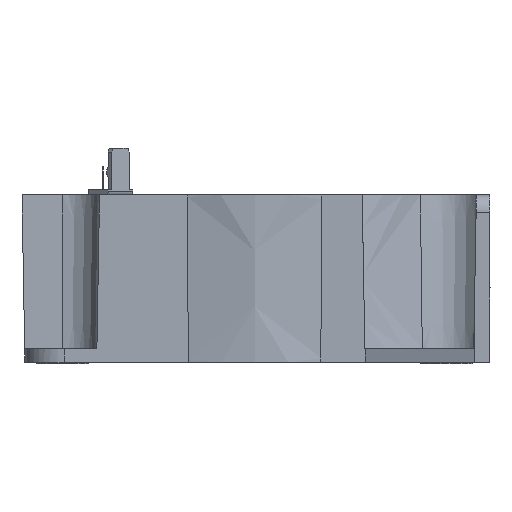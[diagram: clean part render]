
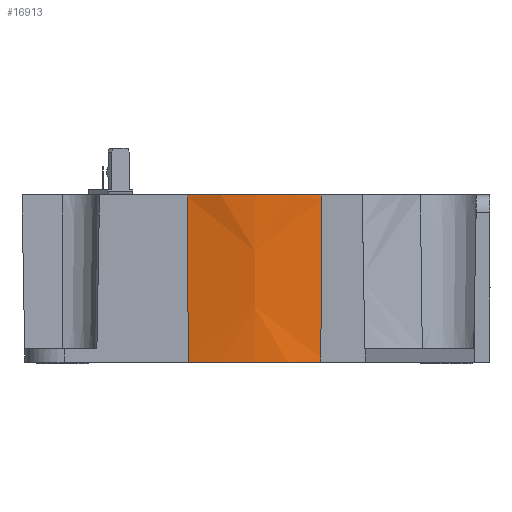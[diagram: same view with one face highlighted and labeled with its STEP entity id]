
A CAD part, left-side view. The second image highlights one B-rep face of the part: STEP entity #16913.
In plain terms, the highlighted conical face has half-angle 1 degrees and reference radius 47 mm.
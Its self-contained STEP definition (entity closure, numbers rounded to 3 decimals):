
#6385=CARTESIAN_POINT('',(-44.408,-12.649,-17.759));
#6386=VERTEX_POINT('',#6385);
#6393=CARTESIAN_POINT('',(-44.408,14.304,-17.759));
#6394=VERTEX_POINT('',#6393);
#6395=CARTESIAN_POINT('',(-0.001,0.828,-17.759));
#6396=DIRECTION('',(0.,0.,-1.0));
#6397=DIRECTION('',(-0.957,0.289,0.));
#6398=AXIS2_PLACEMENT_3D('',#6395,#6396,#6397);
#6399=CIRCLE('',#6398,46.407);
#6400=EDGE_CURVE('',#6386,#6394,#6399,.T.);
#14872=CARTESIAN_POINT('',(-44.424,-12.652,-16.858));
#14873=VERTEX_POINT('',#14872);
#14874=CARTESIAN_POINT('',(-44.408,-12.649,-17.759));
#14875=CARTESIAN_POINT('',(-44.416,-12.65,-17.308));
#14876=CARTESIAN_POINT('',(-44.424,-12.652,-16.858));
#14877=B_SPLINE_CURVE_WITH_KNOTS('',2,(#14874,#14875,#14876),.UNSPECIFIED.,.F.,.U.,(3,3),(114.413,114.501),.UNSPECIFIED.);
#14878=EDGE_CURVE('',#14873,#6386,#14877,.F.);
#14889=CARTESIAN_POINT('',(-45.001,-12.737,16.241));
#14890=VERTEX_POINT('',#14889);
#14897=CARTESIAN_POINT('',(-44.986,-12.735,15.339));
#14898=VERTEX_POINT('',#14897);
#14899=CARTESIAN_POINT('',(-44.986,-12.735,15.339));
#14900=CARTESIAN_POINT('',(-44.994,-12.736,15.79));
#14901=CARTESIAN_POINT('',(-45.001,-12.737,16.241));
#14902=B_SPLINE_CURVE_WITH_KNOTS('',2,(#14899,#14900,#14901),.UNSPECIFIED.,.F.,.U.,(3,3),(117.653,117.741),.UNSPECIFIED.);
#14903=EDGE_CURVE('',#14890,#14898,#14902,.F.);
#14905=CARTESIAN_POINT('',(-44.424,-12.652,-16.858));
#14906=CARTESIAN_POINT('',(-44.704,-12.693,-0.809));
#14907=CARTESIAN_POINT('',(-44.986,-12.735,15.339));
#14908=B_SPLINE_CURVE_WITH_KNOTS('',2,(#14905,#14906,#14907),.UNSPECIFIED.,.F.,.U.,(3,3),(114.501,117.653),.UNSPECIFIED.);
#14909=EDGE_CURVE('',#14898,#14873,#14908,.F.);
#14921=CARTESIAN_POINT('',(-44.415,14.306,-17.328));
#14922=VERTEX_POINT('',#14921);
#14923=CARTESIAN_POINT('',(-44.415,14.306,-17.328));
#14924=CARTESIAN_POINT('',(-44.412,14.305,-17.543));
#14925=CARTESIAN_POINT('',(-44.408,14.304,-17.759));
#14926=B_SPLINE_CURVE_WITH_KNOTS('',2,(#14923,#14924,#14925),.UNSPECIFIED.,.F.,.U.,(3,3),(95.868,95.91),.UNSPECIFIED.);
#14927=EDGE_CURVE('',#6394,#14922,#14926,.F.);
#14929=CARTESIAN_POINT('',(-44.994,14.391,15.812));
#14930=VERTEX_POINT('',#14929);
#14931=CARTESIAN_POINT('',(-44.994,14.391,15.812));
#14932=CARTESIAN_POINT('',(-44.704,14.348,-0.81));
#14933=CARTESIAN_POINT('',(-44.415,14.306,-17.328));
#14934=B_SPLINE_CURVE_WITH_KNOTS('',2,(#14931,#14932,#14933),.UNSPECIFIED.,.F.,.U.,(3,3),(92.624,95.868),.UNSPECIFIED.);
#14935=EDGE_CURVE('',#14922,#14930,#14934,.F.);
#14937=CARTESIAN_POINT('',(-45.001,14.392,16.241));
#14938=VERTEX_POINT('',#14937);
#14939=CARTESIAN_POINT('',(-45.001,14.392,16.241));
#14940=CARTESIAN_POINT('',(-44.998,14.392,16.027));
#14941=CARTESIAN_POINT('',(-44.994,14.391,15.812));
#14942=B_SPLINE_CURVE_WITH_KNOTS('',2,(#14939,#14940,#14941),.UNSPECIFIED.,.F.,.U.,(3,3),(92.582,92.624),.UNSPECIFIED.);
#14943=EDGE_CURVE('',#14930,#14938,#14942,.F.);
#15704=CARTESIAN_POINT('',(-0.001,0.828,16.241));
#15705=DIRECTION('',(0.,0.,1.0));
#15706=DIRECTION('',(-0.957,0.289,0.));
#15707=AXIS2_PLACEMENT_3D('',#15704,#15705,#15706);
#15708=CIRCLE('',#15707,47.0);
#15709=EDGE_CURVE('',#14938,#14890,#15708,.T.);
#16898=CARTESIAN_POINT('',(-0.001,0.828,16.241));
#16899=DIRECTION('',(0.,0.,1.0));
#16900=DIRECTION('',(-0.957,0.289,0.));
#16901=AXIS2_PLACEMENT_3D('',#16898,#16899,#16900);
#16902=CONICAL_SURFACE('',#16901,47.0,1.0);
#16903=ORIENTED_EDGE('',*,*,#14927,.F.);
#16904=ORIENTED_EDGE('',*,*,#6400,.F.);
#16905=ORIENTED_EDGE('',*,*,#14878,.F.);
#16906=ORIENTED_EDGE('',*,*,#14909,.F.);
#16907=ORIENTED_EDGE('',*,*,#14903,.F.);
#16908=ORIENTED_EDGE('',*,*,#15709,.F.);
#16909=ORIENTED_EDGE('',*,*,#14943,.F.);
#16910=ORIENTED_EDGE('',*,*,#14935,.F.);
#16911=EDGE_LOOP('',(#16903,#16904,#16905,#16906,#16907,#16908,#16909,#16910));
#16912=FACE_OUTER_BOUND('',#16911,.T.);
#16913=ADVANCED_FACE('',(#16912),#16902,.T.);
